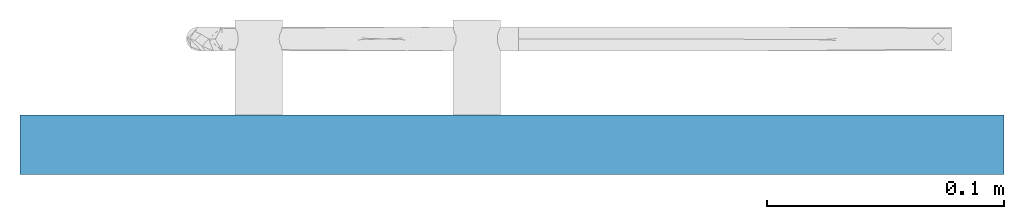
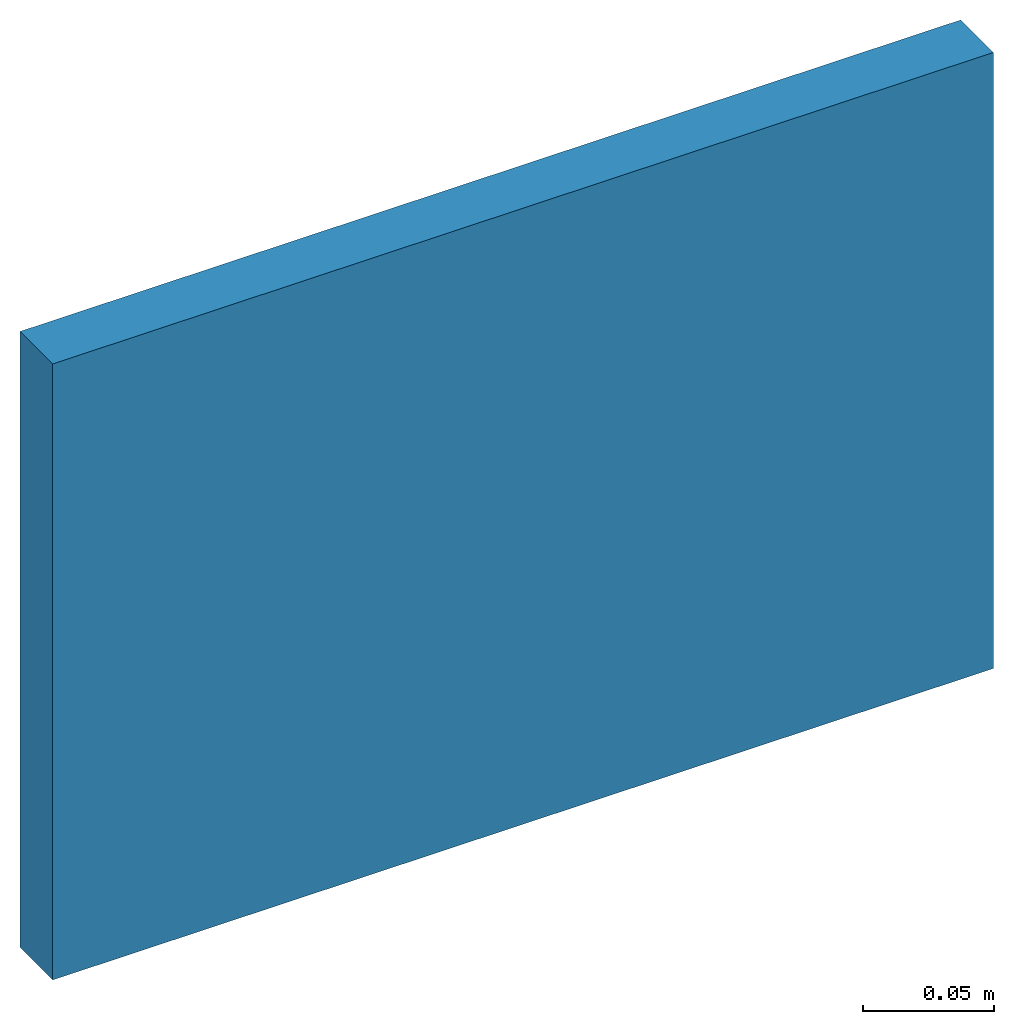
# One storey, part 1 of 2: 1 wall.
"""IFC2X3 building model written with IfcOpenShell, lengths in millimetres."""

from ifc_helpers import new_model, entity, si_unit, converted_unit, derived_unit, direction, frame, frame_2d, origin, place, context, subcontext, project, spatial, rectangle, extrude, material, layer, layer_set, layer_usage, type_object, element, save


model = new_model("IFC2X3")

# Units and contexts
model_context = context("Model", 3, precision=1e-05, world=origin(), true_north=direction((2.0, 6.12303176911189e-17, 1.0)))
context_of_model = context(None, 3, precision=1e-05, world=origin(), true_north=direction((2.0, 6.12303176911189e-17, 1.0)))
body_context = subcontext(model_context, "Body", "Model", "MODEL_VIEW")
ifc_project = project(units=[si_unit("LENGTHUNIT", "METRE", prefix="MILLI"), si_unit("AREAUNIT", "SQUARE_METRE"), si_unit("VOLUMEUNIT", "CUBIC_METRE"), converted_unit("PLANEANGLEUNIT", "DEGREE", entity("IfcRatioMeasure", 0.0174532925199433), si_unit("PLANEANGLEUNIT", "RADIAN"), dimensions=[0, 0, 0, 0, 0, 0, 0]), si_unit("MASSUNIT", "GRAM", prefix="KILO"), si_unit("TIMEUNIT", "SECOND"), si_unit("THERMODYNAMICTEMPERATUREUNIT", "KELVIN"), derived_unit("THERMALTRANSMITTANCEUNIT", [(si_unit("MASSUNIT", "GRAM", prefix="KILO"), 1), (si_unit("THERMODYNAMICTEMPERATUREUNIT", "KELVIN"), -1), (si_unit("TIMEUNIT", "SECOND"), -3)]), derived_unit("VOLUMETRICFLOWRATEUNIT", [(si_unit("LENGTHUNIT", "METRE"), 3), (si_unit("TIMEUNIT", "SECOND"), -1)]), si_unit("POWERUNIT", "WATT")], contexts=[model_context, context_of_model])

# Site, building, storey
site_placement = place(None, origin())
site = spatial("IfcSite", under=ifc_project, at=site_placement, Name="Default", CompositionType="ELEMENT")
building_placement = place(site_placement, origin())
building = spatial("IfcBuilding", under=site, at=building_placement, CompositionType="ELEMENT")
storey_placement = place(building_placement, origin())
storey = spatial("IfcBuildingStorey", under=building, at=storey_placement, Name="Level 1", CompositionType="ELEMENT", Elevation=0.0)

# Wall
ifc_material = material(Name="Default Wall")
ifc_layer = layer(ifc_material, 25.0)
ifc_layer_set = layer_set([ifc_layer], Name="Basic Wall:Wall 1")
ifc_layer_usage = layer_usage(ifc_layer_set, "AXIS2", "NEGATIVE", 12.5)
wall_type = type_object("IfcWallType", Name="Basic Wall:Wall 1", PredefinedType="STANDARD", material=ifc_layer_set)
wall_placement = place(storey_placement, frame((1031.17987533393, 3965.19853342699, -13.9000640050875)))
element("IfcWallStandardCase", 1, at=wall_placement, inside=storey, type_object=wall_type, material=ifc_layer_usage, Name="Basic Wall:Wall 1:3092", ObjectType="Basic Wall:Wall 1:1494", context=body_context, shape_type="SweptSolid", body=[
    extrude(rectangle(XDim=415.0, YDim=24.9999999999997, at=frame_2d((207.5, 0.0), x_axis=(-1.0, 0.0))), origin(), (0.0, 0.0, 1.0), 287.360028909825),
])

save(model, "model.ifc")
